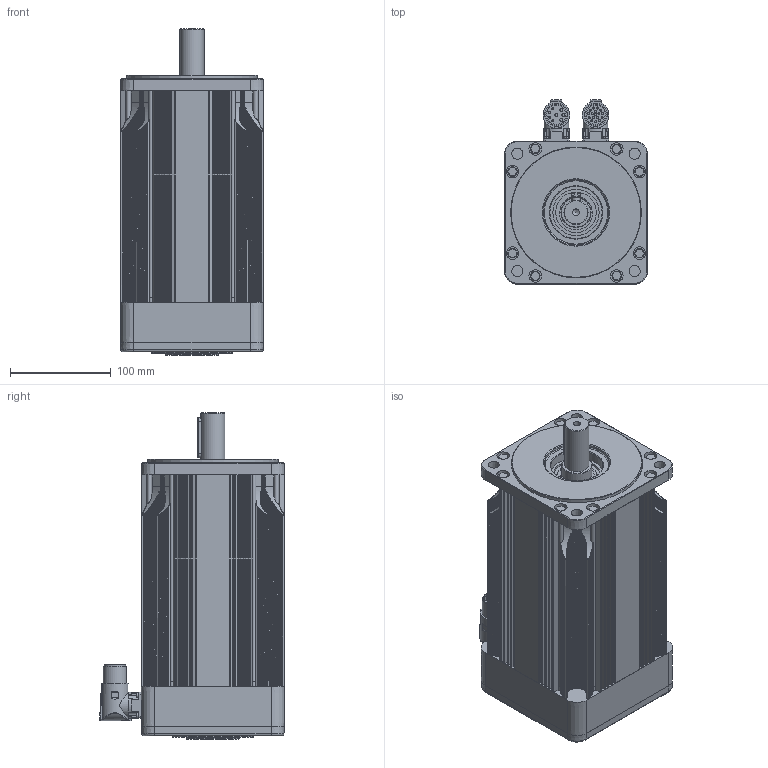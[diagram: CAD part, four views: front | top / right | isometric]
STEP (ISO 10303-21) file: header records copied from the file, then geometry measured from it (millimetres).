
FILE_DESCRIPTION( ( 'Unknown' ), '1' );
FILE_NAME( 'C:/Users/carpi/Desktop/step/Q00765_16,5.stp', 'Unknown', ( 'Unknown' ), ( 'Unknown' ), 'PSStep 14.0', 'Unknown', ' ' );
FILE_SCHEMA( ( 'AUTOMOTIVE_DESIGN { 1 0 10303 214 1 1 1 1 }' ) );
Length unit declared in the file: millimetre
Products named in the file (21): Assem1; CUSC_30_62_16_6206_ZZ; N33600; N09635_pr.golfare; A-Ela 30 P; N49600_L_226; CN M23 PAN-POT BEDC 110 4+4 pin 90°o SpTcR; CN M23 PAN-SEG AEDC 139 17 pin 90°o SpTcR; Vite a brugola testa cil 8,8 -  M 2,5 x 8; N11600; Vite a brugola testa cil 8,8 promoblock-  M4 x 12; LI-PIA   8x7 x 40; N01601; N25600_16,5
Assembly tree (37 placements, depth 2):
  Assem1
    CUSC_30_62_16_6206_ZZ
    CUSC_30_62_16_6206_ZZ
    CUSC_30_62_16_6206_ZZ
    CUSC_30_62_16_6206_ZZ
    CUSC_30_62_16_6206_ZZ
    CUSC_30_62_16_6206_ZZ
    CUSC_30_62_16_6206_ZZ
    CUSC_30_62_16_6206_ZZ
    N33600
    N09635_pr.golfare
    A-Ela 30 P
    N49600_L_226  x8
    CN M23 PAN-POT BEDC 110 4+4 pin 90°o SpTcR
    CN M23 PAN-SEG AEDC 139 17 pin 90°o SpTcR
    Vite a brugola testa cil 8,8 -  M 2,5 x 8  x8
    N11600
    Vite a brugola testa cil 8,8 promoblock-  M4 x 12  x4
    LI-PIA   8x7 x 40
    N01601
    N25600_16,5
Bounding box: 142.19 x 183.65 x 325 mm (x, y, z)
Volume: 1678408.3 mm3; surface area: 655797.2 mm2
Topology: 37 solids, 38 shells, 2261 faces, 5698 edges, 3590 vertices
Faces by surface type: cylinder 963, plane 674, bspline 230, torus 195, cone 164, sphere 35
Full cylindrical faces by diameter (mm): 2 x23, 2.013 x8, 2.5 x8, 2.7 x8, 3 x4, 3.242 x3, 3.3 x6, 4 x4, 4.2 x8, 4.5 x4, 4.6 x8, 4.7 x8, 4.917 x4, 5 x8, 5.5 x8, 6.8 x1, 7 x4, 8 x5, 9.5 x8, 12.5 x8, 14 x1, 17 x2, 19.8 x2, 19.99 x1, 20 x3, 21.3 x2, 23 x2, 24 x1, 24.5 x2, 28.6 x3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
Entity records: 94232 total; most frequent: CARTESIAN_POINT 34301, DIRECTION 9631, ORIENTED_EDGE 9522, EDGE_CURVE 4761, AXIS2_PLACEMENT_3D 3968, VERTEX_POINT 3145, EDGE_LOOP 2419, FACE_OUTER_BOUND 2181
